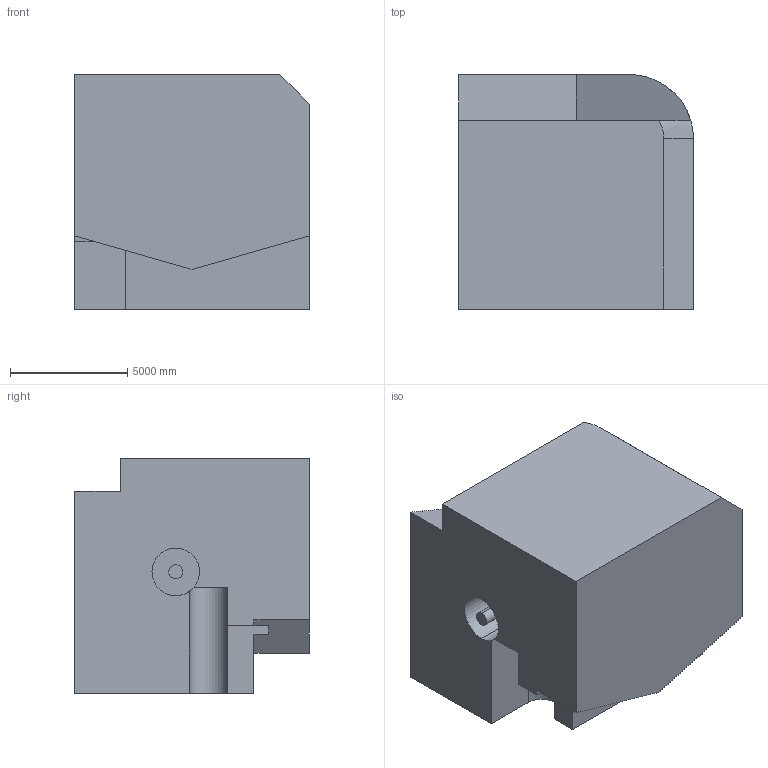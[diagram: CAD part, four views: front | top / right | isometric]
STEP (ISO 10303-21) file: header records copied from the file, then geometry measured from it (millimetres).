
FILE_DESCRIPTION (( 'STEP AP203' ), '1' );
FILE_NAME ('1622.STEP', '2022-08-19T11:07:20', ( 'user' ), ( '' ), 'SwSTEP 2.0', 'SolidWorks 2021', '' );
FILE_SCHEMA (( 'CONFIG_CONTROL_DESIGN' ));
Length unit declared in the file: centimetre
Products named in the file (1): 1622
Bounding box: 10000 x 10000 x 10000 mm (x, y, z)
Volume: 823952306006.6 mm3; surface area: 636001325.2 mm2
Topology: 1 solids, 1 shells, 29 faces, 77 edges, 51 vertices
Faces by surface type: plane 22, cylinder 6, cone 1
Entity records: 1024 total; most frequent: CARTESIAN_POINT 215, ORIENTED_EDGE 154, DIRECTION 148, EDGE_CURVE 77, VECTOR 60, LINE 60, VERTEX_POINT 51, AXIS2_PLACEMENT_3D 44
